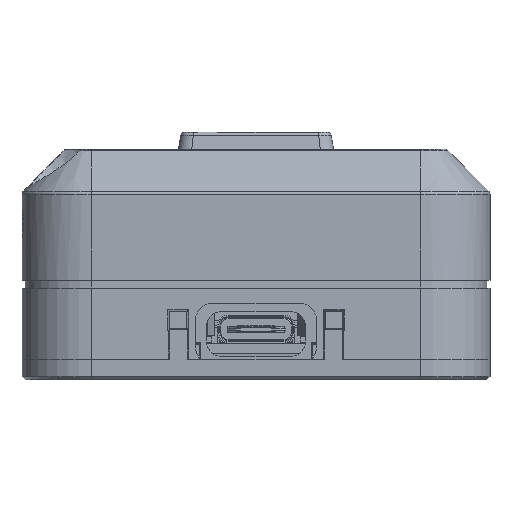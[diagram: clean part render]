
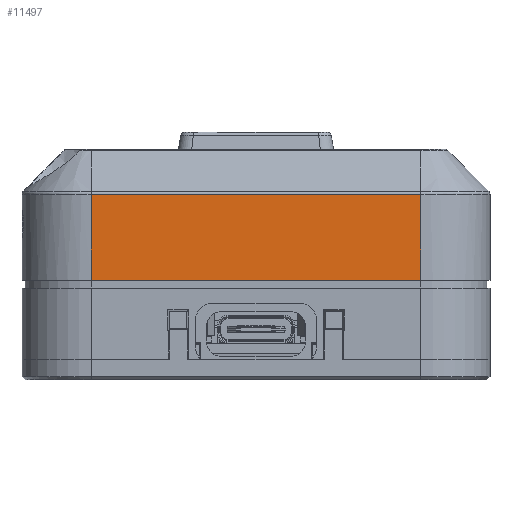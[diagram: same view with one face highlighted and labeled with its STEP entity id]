
A CAD part, front view. The second image highlights one B-rep face of the part: STEP entity #11497.
In plain terms, the highlighted planar face has unit normal (0, -1, 0).
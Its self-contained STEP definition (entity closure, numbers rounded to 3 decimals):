
#3017 = CYLINDRICAL_SURFACE('',#3018,0.5);
#3018 = AXIS2_PLACEMENT_3D('',#3019,#3020,#3021);
#3019 = CARTESIAN_POINT('',(19.,-23.5,21.393));
#3020 = DIRECTION('',(-1.,-0.,-0.));
#3021 = DIRECTION('',(0.,-1.,0.));
#3489 = VERTEX_POINT('',#3490);
#3490 = CARTESIAN_POINT('',(-19.,-24.,21.393));
#3508 = CYLINDRICAL_SURFACE('',#3509,8.);
#3509 = AXIS2_PLACEMENT_3D('',#3510,#3511,#3512);
#3510 = CARTESIAN_POINT('',(-19.,-16.,2.4));
#3511 = DIRECTION('',(0.,0.,1.));
#3512 = DIRECTION('',(-1.,-0.,0.));
#4280 = VERTEX_POINT('',#4281);
#4281 = CARTESIAN_POINT('',(19.,-24.,21.393));
#4322 = CYLINDRICAL_SURFACE('',#4323,8.);
#4323 = AXIS2_PLACEMENT_3D('',#4324,#4325,#4326);
#4324 = CARTESIAN_POINT('',(19.,-16.,2.4));
#4325 = DIRECTION('',(0.,0.,1.));
#4326 = DIRECTION('',(1.,0.,-0.));
#4345 = EDGE_CURVE('',#4280,#3489,#4346,.T.);
#4346 = SURFACE_CURVE('',#4347,(#4351,#4358),.PCURVE_S1.);
#4347 = LINE('',#4348,#4349);
#4348 = CARTESIAN_POINT('',(19.,-24.,21.393));
#4349 = VECTOR('',#4350,1.);
#4350 = DIRECTION('',(-1.,-0.,-0.));
#4351 = PCURVE('',#3017,#4352);
#4352 = DEFINITIONAL_REPRESENTATION('',(#4353),#4357);
#4353 = LINE('',#4354,#4355);
#4354 = CARTESIAN_POINT('',(0.,0.));
#4355 = VECTOR('',#4356,1.);
#4356 = DIRECTION('',(0.,1.));
#4357 = ( GEOMETRIC_REPRESENTATION_CONTEXT(2) 
PARAMETRIC_REPRESENTATION_CONTEXT() REPRESENTATION_CONTEXT('2D SPACE',''
  ) );
#4358 = PCURVE('',#4359,#4364);
#4359 = PLANE('',#4360);
#4360 = AXIS2_PLACEMENT_3D('',#4361,#4362,#4363);
#4361 = CARTESIAN_POINT('',(-27.,-24.,2.4));
#4362 = DIRECTION('',(0.,1.,0.));
#4363 = DIRECTION('',(0.,0.,1.));
#4364 = DEFINITIONAL_REPRESENTATION('',(#4365),#4369);
#4365 = LINE('',#4366,#4367);
#4366 = CARTESIAN_POINT('',(18.993,46.));
#4367 = VECTOR('',#4368,1.);
#4368 = DIRECTION('',(0.,-1.));
#4369 = ( GEOMETRIC_REPRESENTATION_CONTEXT(2) 
PARAMETRIC_REPRESENTATION_CONTEXT() REPRESENTATION_CONTEXT('2D SPACE',''
  ) );
#4815 = VERTEX_POINT('',#4816);
#4816 = CARTESIAN_POINT('',(-19.,-24.,11.5));
#4831 = PLANE('',#4832);
#4832 = AXIS2_PLACEMENT_3D('',#4833,#4834,#4835);
#4833 = CARTESIAN_POINT('',(-27.5,-24.5,11.5));
#4834 = DIRECTION('',(0.,0.,1.));
#4835 = DIRECTION('',(1.,0.,0.));
#4843 = EDGE_CURVE('',#4815,#3489,#4844,.T.);
#4844 = SURFACE_CURVE('',#4845,(#4849,#4856),.PCURVE_S1.);
#4845 = LINE('',#4846,#4847);
#4846 = CARTESIAN_POINT('',(-19.,-24.,2.4));
#4847 = VECTOR('',#4848,1.);
#4848 = DIRECTION('',(0.,0.,1.));
#4849 = PCURVE('',#3508,#4850);
#4850 = DEFINITIONAL_REPRESENTATION('',(#4851),#4855);
#4851 = LINE('',#4852,#4853);
#4852 = CARTESIAN_POINT('',(1.571,0.));
#4853 = VECTOR('',#4854,1.);
#4854 = DIRECTION('',(0.,1.));
#4855 = ( GEOMETRIC_REPRESENTATION_CONTEXT(2) 
PARAMETRIC_REPRESENTATION_CONTEXT() REPRESENTATION_CONTEXT('2D SPACE',''
  ) );
#4856 = PCURVE('',#4359,#4857);
#4857 = DEFINITIONAL_REPRESENTATION('',(#4858),#4862);
#4858 = LINE('',#4859,#4860);
#4859 = CARTESIAN_POINT('',(0.,8.));
#4860 = VECTOR('',#4861,1.);
#4861 = DIRECTION('',(1.,0.));
#4862 = ( GEOMETRIC_REPRESENTATION_CONTEXT(2) 
PARAMETRIC_REPRESENTATION_CONTEXT() REPRESENTATION_CONTEXT('2D SPACE',''
  ) );
#11453 = VERTEX_POINT('',#11454);
#11454 = CARTESIAN_POINT('',(19.,-24.,11.5));
#11476 = EDGE_CURVE('',#11453,#4280,#11477,.T.);
#11477 = SURFACE_CURVE('',#11478,(#11482,#11489),.PCURVE_S1.);
#11478 = LINE('',#11479,#11480);
#11479 = CARTESIAN_POINT('',(19.,-24.,2.4));
#11480 = VECTOR('',#11481,1.);
#11481 = DIRECTION('',(0.,0.,1.));
#11482 = PCURVE('',#4322,#11483);
#11483 = DEFINITIONAL_REPRESENTATION('',(#11484),#11488);
#11484 = LINE('',#11485,#11486);
#11485 = CARTESIAN_POINT('',(-1.571,0.));
#11486 = VECTOR('',#11487,1.);
#11487 = DIRECTION('',(-0.,1.));
#11488 = ( GEOMETRIC_REPRESENTATION_CONTEXT(2) 
PARAMETRIC_REPRESENTATION_CONTEXT() REPRESENTATION_CONTEXT('2D SPACE',''
  ) );
#11489 = PCURVE('',#4359,#11490);
#11490 = DEFINITIONAL_REPRESENTATION('',(#11491),#11495);
#11491 = LINE('',#11492,#11493);
#11492 = CARTESIAN_POINT('',(0.,46.));
#11493 = VECTOR('',#11494,1.);
#11494 = DIRECTION('',(1.,0.));
#11495 = ( GEOMETRIC_REPRESENTATION_CONTEXT(2) 
PARAMETRIC_REPRESENTATION_CONTEXT() REPRESENTATION_CONTEXT('2D SPACE',''
  ) );
#11497 = ADVANCED_FACE('',(#11498),#4359,.F.);
#11498 = FACE_BOUND('',#11499,.F.);
#11499 = EDGE_LOOP('',(#11500,#11519,#11520,#11521));
#11500 = ORIENTED_EDGE('',*,*,#11501,.F.);
#11501 = EDGE_CURVE('',#4815,#11453,#11502,.T.);
#11502 = SURFACE_CURVE('',#11503,(#11507,#11513),.PCURVE_S1.);
#11503 = LINE('',#11504,#11505);
#11504 = CARTESIAN_POINT('',(-27.25,-24.,11.5));
#11505 = VECTOR('',#11506,1.);
#11506 = DIRECTION('',(1.,0.,0.));
#11507 = PCURVE('',#4359,#11508);
#11508 = DEFINITIONAL_REPRESENTATION('',(#11509),#11512);
#11509 = B_SPLINE_CURVE_WITH_KNOTS('',1,(#11510,#11511),.UNSPECIFIED.,
  .F.,.F.,(2,2),(8.25,46.25),.PIECEWISE_BEZIER_KNOTS.);
#11510 = CARTESIAN_POINT('',(9.1,8.));
#11511 = CARTESIAN_POINT('',(9.1,46.));
#11512 = ( GEOMETRIC_REPRESENTATION_CONTEXT(2) 
PARAMETRIC_REPRESENTATION_CONTEXT() REPRESENTATION_CONTEXT('2D SPACE',''
  ) );
#11513 = PCURVE('',#4831,#11514);
#11514 = DEFINITIONAL_REPRESENTATION('',(#11515),#11518);
#11515 = B_SPLINE_CURVE_WITH_KNOTS('',1,(#11516,#11517),.UNSPECIFIED.,
  .F.,.F.,(2,2),(8.25,46.25),.PIECEWISE_BEZIER_KNOTS.);
#11516 = CARTESIAN_POINT('',(8.5,0.5));
#11517 = CARTESIAN_POINT('',(46.5,0.5));
#11518 = ( GEOMETRIC_REPRESENTATION_CONTEXT(2) 
PARAMETRIC_REPRESENTATION_CONTEXT() REPRESENTATION_CONTEXT('2D SPACE',''
  ) );
#11519 = ORIENTED_EDGE('',*,*,#4843,.T.);
#11520 = ORIENTED_EDGE('',*,*,#4345,.F.);
#11521 = ORIENTED_EDGE('',*,*,#11476,.F.);
